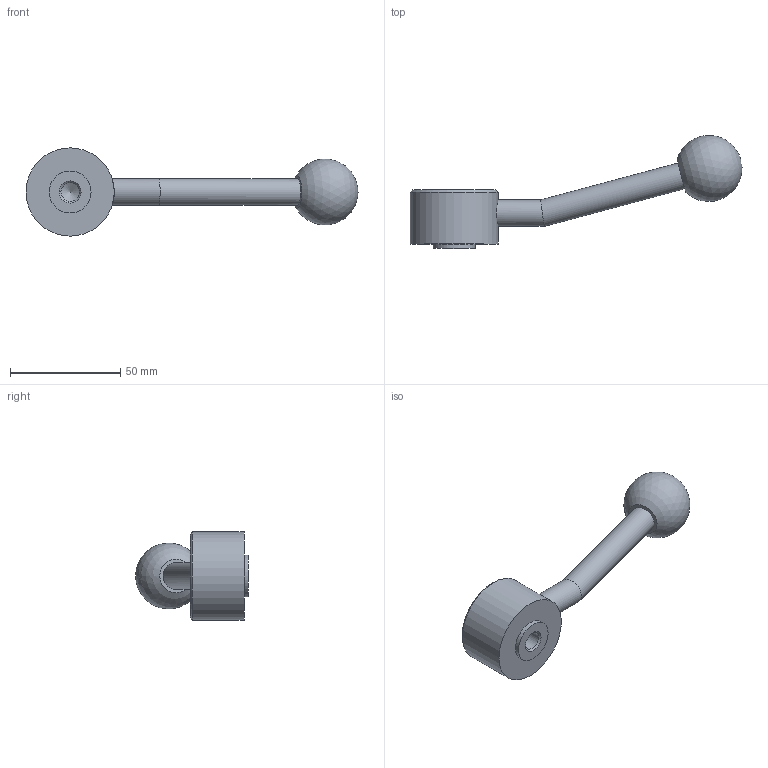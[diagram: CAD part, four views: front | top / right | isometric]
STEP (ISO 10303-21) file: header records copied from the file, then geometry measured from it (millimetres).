
FILE_DESCRIPTION( ( 'STEP AP203' ), '1' );
FILE_NAME( 'C:/Temp/Ganter_Step_05_03_2020/data/2_1/gn_125/gn_125_mb/gn_125_mb_e/Flat Adjustable Lever GN 125-40-M10-E.stp', '2020-03-05T11:00:42', ( 'License CC BY-ND 4.0' ), ( 'CADENAS' ), ' ', 'PARTsolutions', ' ' );
FILE_SCHEMA( ( 'CONFIG_CONTROL_DESIGN' ) );
Length unit declared in the file: millimetre
Products named in the file (1): _Flat Adjustable Lever GN 125-40-M10-E
Bounding box: 150.51 x 51.21 x 40 mm (x, y, z)
Volume: 53761.4 mm3; surface area: 11919.5 mm2
Topology: 1 solids, 1 shells, 15 faces, 27 edges, 17 vertices
Faces by surface type: cylinder 6, plane 5, cone 3, sphere 1
Full cylindrical faces by diameter (mm): 8.376 x1, 12 x2, 19 x1, 28 x1, 40 x1
Entity records: 426 total; most frequent: CARTESIAN_POINT 129, DIRECTION 58, AXIS2_PLACEMENT_3D 29, EDGE_LOOP 28, ORIENTED_EDGE 28, FACE_OUTER_BOUND 21, VERTEX_POINT 16, ADVANCED_FACE 15
